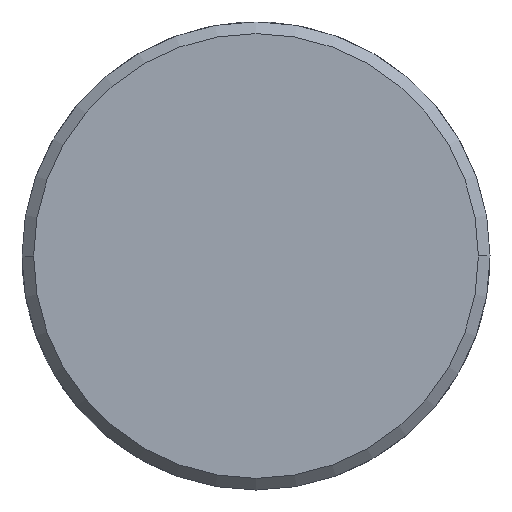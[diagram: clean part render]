
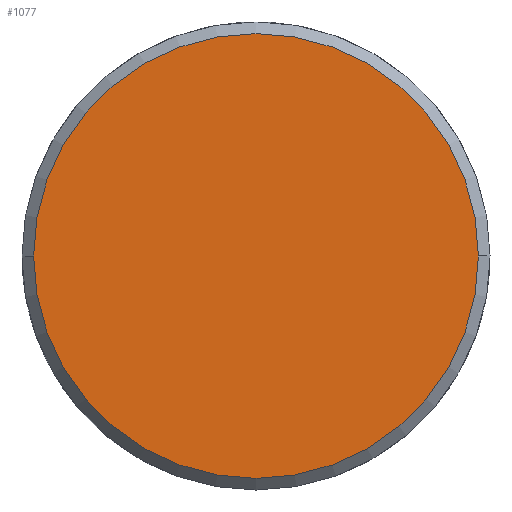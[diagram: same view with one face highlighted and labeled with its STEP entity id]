
A CAD part, left-side view. The second image highlights one B-rep face of the part: STEP entity #1077.
In plain terms, the highlighted planar face has unit normal (-1, 0, 0).
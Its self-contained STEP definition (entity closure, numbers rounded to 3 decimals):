
#97 = ORIENTED_EDGE ( 'NONE', *, *, #475, .T. ) ;
#137 = CIRCLE ( 'NONE', #383, 19.2 ) ;
#163 = CIRCLE ( 'NONE', #421, 19.2 ) ;
#204 = FACE_OUTER_BOUND ( 'NONE', #317, .T. ) ;
#303 = VERTEX_POINT ( 'NONE', #699 ) ;
#317 = EDGE_LOOP ( 'NONE', ( #97, #1037 ) ) ;
#334 = VERTEX_POINT ( 'NONE', #690 ) ;
#383 = AXIS2_PLACEMENT_3D ( 'NONE', #658, #694, #730 ) ;
#393 = AXIS2_PLACEMENT_3D ( 'NONE', #925, #896, #933 ) ;
#421 = AXIS2_PLACEMENT_3D ( 'NONE', #857, #871, #872 ) ;
#475 = EDGE_CURVE ( 'NONE', #334, #303, #137, .T. ) ;
#658 = CARTESIAN_POINT ( 'NONE',  ( 0., 0., 0. ) ) ;
#690 = CARTESIAN_POINT ( 'NONE',  ( 0., 19.2, 0. ) ) ;
#694 = DIRECTION ( 'NONE',  ( -1., 0., 0. ) ) ;
#699 = CARTESIAN_POINT ( 'NONE',  ( 0., -19.2, 0. ) ) ;
#730 = DIRECTION ( 'NONE',  ( 0., -1., 0. ) ) ;
#857 = CARTESIAN_POINT ( 'NONE',  ( 0., 0., 0. ) ) ;
#871 = DIRECTION ( 'NONE',  ( -1., 0., 0. ) ) ;
#872 = DIRECTION ( 'NONE',  ( 0., -1., 0. ) ) ;
#896 = DIRECTION ( 'NONE',  ( -1., 0., 0. ) ) ;
#925 = CARTESIAN_POINT ( 'NONE',  ( 0., 0., 0. ) ) ;
#927 = PLANE ( 'NONE',  #393 ) ;
#933 = DIRECTION ( 'NONE',  ( 0., -1., 0. ) ) ;
#1037 = ORIENTED_EDGE ( 'NONE', *, *, #1054, .T. ) ;
#1054 = EDGE_CURVE ( 'NONE', #303, #334, #163, .T. ) ;
#1077 = ADVANCED_FACE ( 'NONE', ( #204 ), #927, .T. ) ;
